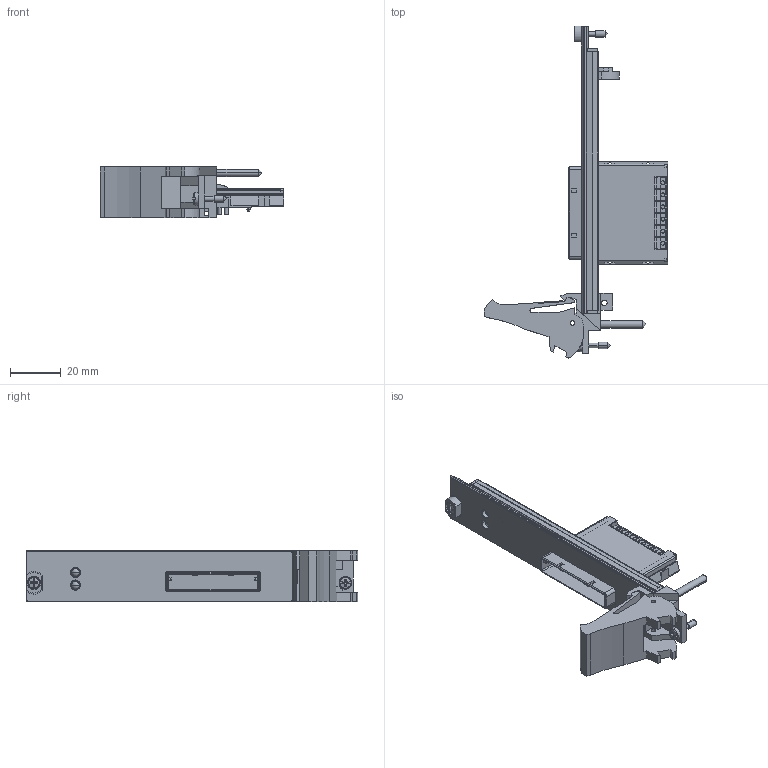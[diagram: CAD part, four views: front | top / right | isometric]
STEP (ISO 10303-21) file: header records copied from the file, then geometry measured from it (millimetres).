
FILE_DESCRIPTION((''),'2;1');
FILE_NAME('CU_PXIE-8383MC','2013-08-26T',('sboose'),(''),'PRO/ENGINEER BY PARAMETRIC TECHNOLOGY CORPORATION, 2011490','PRO/ENGINEER BY PARAMETRIC TECHNOLOGY CORPORATION, 2011490','');
FILE_SCHEMA(('CONFIG_CONTROL_DESIGN'));
Length unit declared in the file: inch
Products named in the file (1): CU_PXIE-8383MC
Bounding box: 72.02 x 130.5 x 20.31 mm (x, y, z)
Surface area: 25602.2 mm2 (no closed solid volume)
Topology: 0 solids, 13 shells, 612 faces, 1838 edges, 1220 vertices
Faces by surface type: plane 405, cylinder 179, cone 16, sphere 8, torus 4
Entity records: 20992 total; most frequent: CARTESIAN_POINT 4379, DIRECTION 3386, ORIENTED_EDGE 3358, EDGE_CURVE 1830, VECTOR 1360, LINE 1360, VERTEX_POINT 1220, AXIS2_PLACEMENT_3D 1013
